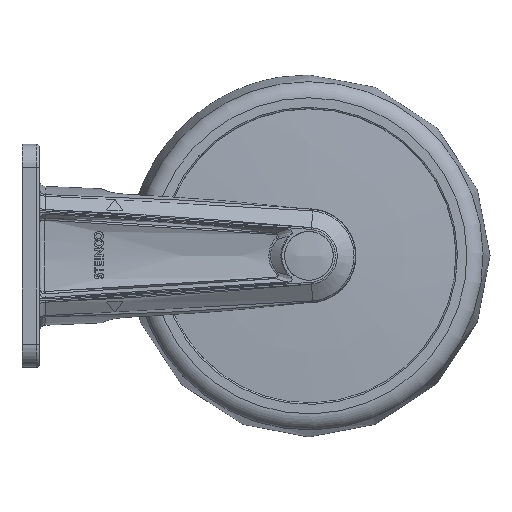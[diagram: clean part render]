
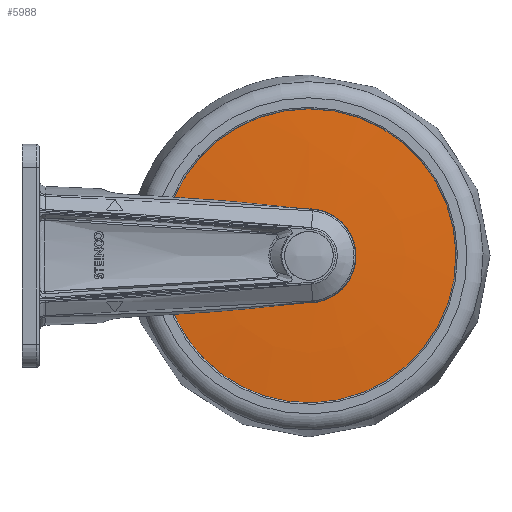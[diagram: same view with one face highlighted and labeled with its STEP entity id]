
A CAD part, left-side view. The second image highlights one B-rep face of the part: STEP entity #5988.
In plain terms, the highlighted free-form (B-spline) face has degree [2, 2] with [3, 9] control points.
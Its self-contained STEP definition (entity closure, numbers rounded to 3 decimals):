
#150=(
BOUNDED_SURFACE()
B_SPLINE_SURFACE(2,2,((#34313,#34314,#34315,#34316,#34317,#34318,#34319,
#34320,#34321),(#34322,#34323,#34324,#34325,#34326,#34327,#34328,#34329,
#34330),(#34331,#34332,#34333,#34334,#34335,#34336,#34337,#34338,#34339)),
 .UNSPECIFIED.,.F.,.T.,.F.)
B_SPLINE_SURFACE_WITH_KNOTS((3,3),(3,2,2,2,3),(-1.548,-1.502),
(-3.142,-1.571,0.,1.571,3.142),
 .UNSPECIFIED.)
GEOMETRIC_REPRESENTATION_ITEM()
RATIONAL_B_SPLINE_SURFACE(((1.,0.707,1.,0.707,1.,
0.707,1.,0.707,1.),(1.,0.707,
1.,0.707,1.,0.707,
1.,0.707,1.),(1.,0.707,
1.,0.707,1.,0.707,1.,0.707,1.)))
REPRESENTATION_ITEM('')
SURFACE()
);
#488=CIRCLE('',#6445,16.25);
#489=CIRCLE('',#6446,16.25);
#490=CIRCLE('',#6448,50.75);
#491=CIRCLE('',#6449,50.75);
#492=CIRCLE('',#6450,50.75);
#493=CIRCLE('',#6451,750.);
#1394=FACE_OUTER_BOUND('',#1775,.T.);
#1775=EDGE_LOOP('',(#5212,#5213,#5214,#5215,#5216,#5217,#5218));
#2661=VERTEX_POINT('',#34300);
#2662=VERTEX_POINT('',#34301);
#2663=VERTEX_POINT('',#34306);
#2664=VERTEX_POINT('',#34308);
#2665=VERTEX_POINT('',#34310);
#3509=EDGE_CURVE('',#2661,#2662,#488,.T.);
#3511=EDGE_CURVE('',#2662,#2661,#489,.T.);
#3513=EDGE_CURVE('',#2664,#2663,#490,.F.);
#3514=EDGE_CURVE('',#2665,#2664,#491,.F.);
#3515=EDGE_CURVE('',#2663,#2665,#492,.F.);
#3516=EDGE_CURVE('',#2665,#2662,#493,.T.);
#5212=ORIENTED_EDGE('',*,*,#3513,.T.);
#5213=ORIENTED_EDGE('',*,*,#3515,.T.);
#5214=ORIENTED_EDGE('',*,*,#3516,.T.);
#5215=ORIENTED_EDGE('',*,*,#3511,.T.);
#5216=ORIENTED_EDGE('',*,*,#3509,.T.);
#5217=ORIENTED_EDGE('',*,*,#3516,.F.);
#5218=ORIENTED_EDGE('',*,*,#3514,.T.);
#5988=ADVANCED_FACE('',(#1394),#150,.F.);
#6445=AXIS2_PLACEMENT_3D('',#34302,#7555,#7556);
#6446=AXIS2_PLACEMENT_3D('',#34304,#7558,#7559);
#6448=AXIS2_PLACEMENT_3D('',#34309,#7563,#7564);
#6449=AXIS2_PLACEMENT_3D('',#34311,#7565,#7566);
#6450=AXIS2_PLACEMENT_3D('',#34312,#7567,#7568);
#6451=AXIS2_PLACEMENT_3D('',#34340,#7569,#7570);
#7555=DIRECTION('center_axis',(1.,0.,0.));
#7556=DIRECTION('ref_axis',(0.,-0.66,0.751));
#7558=DIRECTION('center_axis',(1.,0.,0.));
#7559=DIRECTION('ref_axis',(0.,-0.66,0.751));
#7563=DIRECTION('center_axis',(1.,0.,0.));
#7564=DIRECTION('ref_axis',(0.,1.,0.));
#7565=DIRECTION('center_axis',(1.,0.,0.));
#7566=DIRECTION('ref_axis',(0.,1.,0.));
#7567=DIRECTION('center_axis',(1.,0.,0.));
#7568=DIRECTION('ref_axis',(0.,1.,0.));
#7569=DIRECTION('center_axis',(0.,-1.,0.));
#7570=DIRECTION('ref_axis',(0.,0.,1.));
#34300=CARTESIAN_POINT('',(-16.302,-109.735,12.201));
#34301=CARTESIAN_POINT('',(-16.302,-99.002,16.25));
#34302=CARTESIAN_POINT('Origin',(-16.302,-99.002,0.));
#34304=CARTESIAN_POINT('Origin',(-16.302,-99.002,0.));
#34306=CARTESIAN_POINT('',(-14.727,-91.781,-50.234));
#34308=CARTESIAN_POINT('',(-14.727,-48.252,0.));
#34309=CARTESIAN_POINT('Origin',(-14.727,-99.002,0.));
#34310=CARTESIAN_POINT('',(-14.727,-99.002,50.75));
#34311=CARTESIAN_POINT('Origin',(-14.727,-99.002,0.));
#34312=CARTESIAN_POINT('Origin',(-14.727,-99.002,0.));
#34313=CARTESIAN_POINT('Ctrl Pts',(-16.302,-99.002,
16.25));
#34314=CARTESIAN_POINT('Ctrl Pts',(-16.302,-115.252,
16.25));
#34315=CARTESIAN_POINT('Ctrl Pts',(-16.302,-115.252,
0.));
#34316=CARTESIAN_POINT('Ctrl Pts',(-16.302,-115.252,
-16.25));
#34317=CARTESIAN_POINT('Ctrl Pts',(-16.302,-99.002,
-16.25));
#34318=CARTESIAN_POINT('Ctrl Pts',(-16.302,-82.752,
-16.25));
#34319=CARTESIAN_POINT('Ctrl Pts',(-16.302,-82.752,
0.));
#34320=CARTESIAN_POINT('Ctrl Pts',(-16.302,-82.752,
16.25));
#34321=CARTESIAN_POINT('Ctrl Pts',(-16.302,-99.002,
16.25));
#34322=CARTESIAN_POINT('Ctrl Pts',(-15.912,-99.002,
33.518));
#34323=CARTESIAN_POINT('Ctrl Pts',(-15.912,-132.52,
33.518));
#34324=CARTESIAN_POINT('Ctrl Pts',(-15.912,-132.52,
0.));
#34325=CARTESIAN_POINT('Ctrl Pts',(-15.912,-132.52,
-33.518));
#34326=CARTESIAN_POINT('Ctrl Pts',(-15.912,-99.002,
-33.518));
#34327=CARTESIAN_POINT('Ctrl Pts',(-15.912,-65.483,
-33.518));
#34328=CARTESIAN_POINT('Ctrl Pts',(-15.912,-65.483,
0.));
#34329=CARTESIAN_POINT('Ctrl Pts',(-15.912,-65.483,
33.518));
#34330=CARTESIAN_POINT('Ctrl Pts',(-15.912,-99.002,
33.518));
#34331=CARTESIAN_POINT('Ctrl Pts',(-14.727,-99.002,
50.75));
#34332=CARTESIAN_POINT('Ctrl Pts',(-14.727,-149.752,
50.75));
#34333=CARTESIAN_POINT('Ctrl Pts',(-14.727,-149.752,
0.));
#34334=CARTESIAN_POINT('Ctrl Pts',(-14.727,-149.752,
-50.75));
#34335=CARTESIAN_POINT('Ctrl Pts',(-14.727,-99.002,
-50.75));
#34336=CARTESIAN_POINT('Ctrl Pts',(-14.727,-48.252,
-50.75));
#34337=CARTESIAN_POINT('Ctrl Pts',(-14.727,-48.252,
0.));
#34338=CARTESIAN_POINT('Ctrl Pts',(-14.727,-48.252,
50.75));
#34339=CARTESIAN_POINT('Ctrl Pts',(-14.727,-99.002,
50.75));
#34340=CARTESIAN_POINT('Origin',(733.507,-99.002,-0.677));
